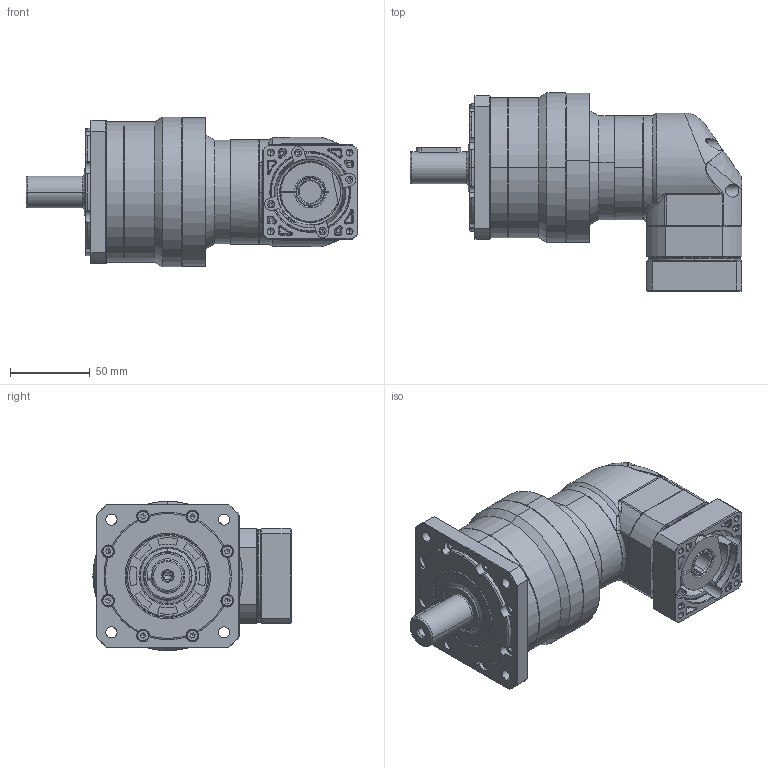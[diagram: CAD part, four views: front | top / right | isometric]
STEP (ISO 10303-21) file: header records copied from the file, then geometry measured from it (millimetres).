
FILE_DESCRIPTION (( 'STEP AP214' ), '1' );
FILE_NAME ('FGAR-080D-L2-P2-14-50-70-M5-33.STEP', '2021-04-07T01:22:08', ( '微软用户' ), ( '微软中国' ), 'SwSTEP 2.0', 'SolidWorks 2014', '' );
FILE_SCHEMA (( 'AUTOMOTIVE_DESIGN' ));
Length unit declared in the file: millimetre
Products named in the file (47): A倰す瑩 6-28; 坶踡遠18-37-12(1); M4-10樓粟菜; 怀堤俴陎殤FBR090-20粣; 输入太阳齿轮060D-14; 珨撰眻褒眊极FBR064D-5.27; 11-输入法兰FBR060D-50-70-M5; 一级内齿圈壳体FBR060D; 2-输入端壳体FBR060D; 内齿圈FBR080; 怀堤傷褲极FBR080; M3-10樓粟菜; FGAR-080D-L2-P2-14-50-70-M5-33; 9-怀堤傷褲极FADR064D; 蚐猾30526
Assembly tree (32 placements, depth 2):
  坶踡遠18-37-12(1)
  M4-10樓粟菜
  输入太阳齿轮060D-14
  M4-10樓粟菜
  11-输入法兰FBR060D-50-70-M5
Bounding box: 208.5 x 124.5 x 94 mm (x, y, z)
Volume: 915841.8 mm3; surface area: 165848 mm2
Topology: 13 solids, 53 shells, 1860 faces, 4669 edges, 2930 vertices
Faces by surface type: plane 685, cylinder 565, bspline 345, cone 247, torus 18
Entity records: 52976 total; most frequent: CARTESIAN_POINT 21704, ORIENTED_EDGE 6596, DIRECTION 5703, EDGE_CURVE 3305, VERTEX_POINT 2096, AXIS2_PLACEMENT_3D 2068, LINE 1567, VECTOR 1567
